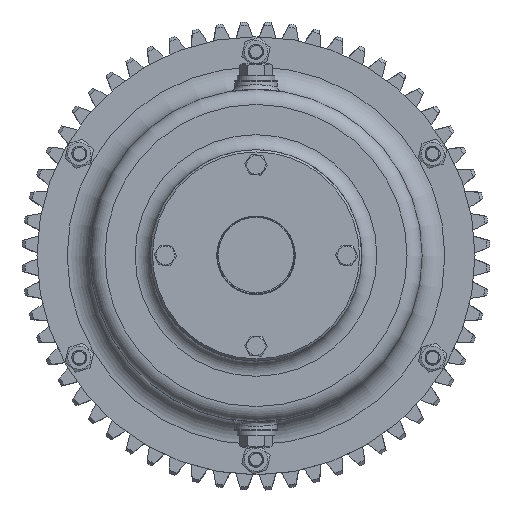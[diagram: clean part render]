
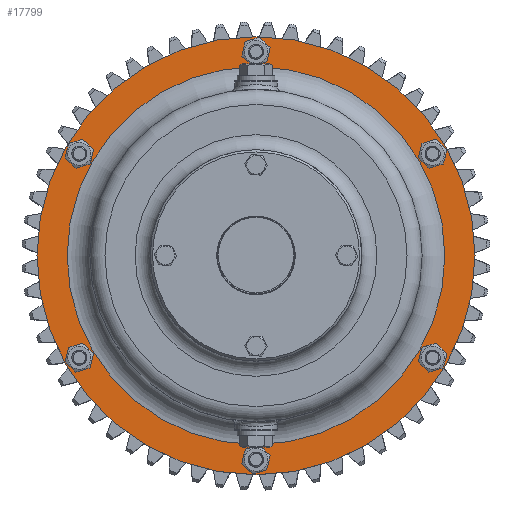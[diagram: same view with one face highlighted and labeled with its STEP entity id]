
A CAD part, top view. The second image highlights one B-rep face of the part: STEP entity #17799.
In plain terms, the highlighted planar face has unit normal (0, 0, 1).
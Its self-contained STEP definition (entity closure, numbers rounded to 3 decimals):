
#1341=FACE_BOUND('',#4253,.T.);
#1342=FACE_BOUND('',#4254,.T.);
#1343=FACE_BOUND('',#4255,.T.);
#1344=FACE_BOUND('',#4256,.T.);
#1345=FACE_BOUND('',#4257,.T.);
#1346=FACE_BOUND('',#4258,.T.);
#1347=FACE_BOUND('',#4259,.T.);
#1785=CIRCLE('',#19515,5.5);
#1788=CIRCLE('',#19519,5.5);
#1791=CIRCLE('',#19523,5.5);
#1794=CIRCLE('',#19527,5.5);
#1797=CIRCLE('',#19531,5.5);
#1800=CIRCLE('',#19535,5.5);
#1864=CIRCLE('',#19637,125.);
#1865=CIRCLE('',#19638,125.);
#1866=CIRCLE('',#19640,145.);
#1867=CIRCLE('',#19641,145.);
#2767=PLANE('',#19639);
#3236=FACE_OUTER_BOUND('',#4252,.T.);
#4252=EDGE_LOOP('',(#13675,#13676));
#4253=EDGE_LOOP('',(#13677));
#4254=EDGE_LOOP('',(#13678));
#4255=EDGE_LOOP('',(#13679));
#4256=EDGE_LOOP('',(#13680));
#4257=EDGE_LOOP('',(#13681));
#4258=EDGE_LOOP('',(#13682));
#4259=EDGE_LOOP('',(#13683,#13684));
#7667=VERTEX_POINT('',#40642);
#7670=VERTEX_POINT('',#40650);
#7673=VERTEX_POINT('',#40658);
#7676=VERTEX_POINT('',#40666);
#7679=VERTEX_POINT('',#40674);
#7682=VERTEX_POINT('',#40682);
#7764=VERTEX_POINT('',#41179);
#7765=VERTEX_POINT('',#41181);
#7766=VERTEX_POINT('',#41185);
#7767=VERTEX_POINT('',#41186);
#9838=EDGE_CURVE('',#7667,#7667,#1785,.T.);
#9842=EDGE_CURVE('',#7670,#7670,#1788,.T.);
#9846=EDGE_CURVE('',#7673,#7673,#1791,.T.);
#9850=EDGE_CURVE('',#7676,#7676,#1794,.T.);
#9854=EDGE_CURVE('',#7679,#7679,#1797,.T.);
#9858=EDGE_CURVE('',#7682,#7682,#1800,.T.);
#9975=EDGE_CURVE('',#7764,#7765,#1864,.T.);
#9976=EDGE_CURVE('',#7765,#7764,#1865,.T.);
#9977=EDGE_CURVE('',#7766,#7767,#1866,.T.);
#9978=EDGE_CURVE('',#7767,#7766,#1867,.T.);
#13675=ORIENTED_EDGE('',*,*,#9977,.F.);
#13676=ORIENTED_EDGE('',*,*,#9978,.F.);
#13677=ORIENTED_EDGE('',*,*,#9838,.T.);
#13678=ORIENTED_EDGE('',*,*,#9842,.T.);
#13679=ORIENTED_EDGE('',*,*,#9846,.T.);
#13680=ORIENTED_EDGE('',*,*,#9850,.T.);
#13681=ORIENTED_EDGE('',*,*,#9854,.T.);
#13682=ORIENTED_EDGE('',*,*,#9858,.T.);
#13683=ORIENTED_EDGE('',*,*,#9976,.F.);
#13684=ORIENTED_EDGE('',*,*,#9975,.F.);
#17799=ADVANCED_FACE('',(#3236,#1341,#1342,#1343,#1344,#1345,#1346,#1347),
#2767,.T.);
#19515=AXIS2_PLACEMENT_3D('',#40644,#22358,#22359);
#19519=AXIS2_PLACEMENT_3D('',#40652,#22367,#22368);
#19523=AXIS2_PLACEMENT_3D('',#40660,#22376,#22377);
#19527=AXIS2_PLACEMENT_3D('',#40668,#22385,#22386);
#19531=AXIS2_PLACEMENT_3D('',#40676,#22394,#22395);
#19535=AXIS2_PLACEMENT_3D('',#40684,#22403,#22404);
#19637=AXIS2_PLACEMENT_3D('',#41182,#22652,#22653);
#19638=AXIS2_PLACEMENT_3D('',#41183,#22654,#22655);
#19639=AXIS2_PLACEMENT_3D('',#41184,#22656,#22657);
#19640=AXIS2_PLACEMENT_3D('',#41187,#22658,#22659);
#19641=AXIS2_PLACEMENT_3D('',#41188,#22660,#22661);
#22358=DIRECTION('center_axis',(0.,0.,-1.));
#22359=DIRECTION('ref_axis',(-0.5,-0.866,0.));
#22367=DIRECTION('center_axis',(0.,0.,-1.));
#22368=DIRECTION('ref_axis',(0.5,-0.866,0.));
#22376=DIRECTION('center_axis',(0.,0.,-1.));
#22377=DIRECTION('ref_axis',(1.,0.,0.));
#22385=DIRECTION('center_axis',(0.,0.,-1.));
#22386=DIRECTION('ref_axis',(0.5,0.866,0.));
#22394=DIRECTION('center_axis',(0.,0.,-1.));
#22395=DIRECTION('ref_axis',(-0.5,0.866,0.));
#22403=DIRECTION('center_axis',(0.,0.,-1.));
#22404=DIRECTION('ref_axis',(-1.,0.,0.));
#22652=DIRECTION('center_axis',(0.,0.,1.));
#22653=DIRECTION('ref_axis',(0.,-1.,0.));
#22654=DIRECTION('center_axis',(0.,0.,1.));
#22655=DIRECTION('ref_axis',(0.,-1.,0.));
#22656=DIRECTION('center_axis',(0.,0.,1.));
#22657=DIRECTION('ref_axis',(1.,0.,0.));
#22658=DIRECTION('center_axis',(0.,0.,-1.));
#22659=DIRECTION('ref_axis',(1.,0.,0.));
#22660=DIRECTION('center_axis',(0.,0.,-1.));
#22661=DIRECTION('ref_axis',(1.,0.,0.));
#40642=CARTESIAN_POINT('',(-114.163,72.263,14.));
#40644=CARTESIAN_POINT('Origin',(-116.913,67.5,14.));
#40650=CARTESIAN_POINT('',(-119.663,-62.737,14.));
#40652=CARTESIAN_POINT('Origin',(-116.913,-67.5,14.));
#40658=CARTESIAN_POINT('',(-5.5,-135.,14.));
#40660=CARTESIAN_POINT('Origin',(0.,-135.,14.));
#40666=CARTESIAN_POINT('',(114.163,-72.263,14.));
#40668=CARTESIAN_POINT('Origin',(116.913,-67.5,14.));
#40674=CARTESIAN_POINT('',(119.663,62.737,14.));
#40676=CARTESIAN_POINT('Origin',(116.913,67.5,14.));
#40682=CARTESIAN_POINT('',(5.5,135.,14.));
#40684=CARTESIAN_POINT('Origin',(0.,135.,14.));
#41179=CARTESIAN_POINT('',(125.,0.,14.));
#41181=CARTESIAN_POINT('',(0.,125.,14.));
#41182=CARTESIAN_POINT('Origin',(0.,0.,14.));
#41183=CARTESIAN_POINT('Origin',(0.,0.,14.));
#41184=CARTESIAN_POINT('Origin',(0.,145.,14.));
#41185=CARTESIAN_POINT('',(0.,145.,14.));
#41186=CARTESIAN_POINT('',(0.,-145.,14.));
#41187=CARTESIAN_POINT('Origin',(0.,0.,14.));
#41188=CARTESIAN_POINT('Origin',(0.,0.,14.));
